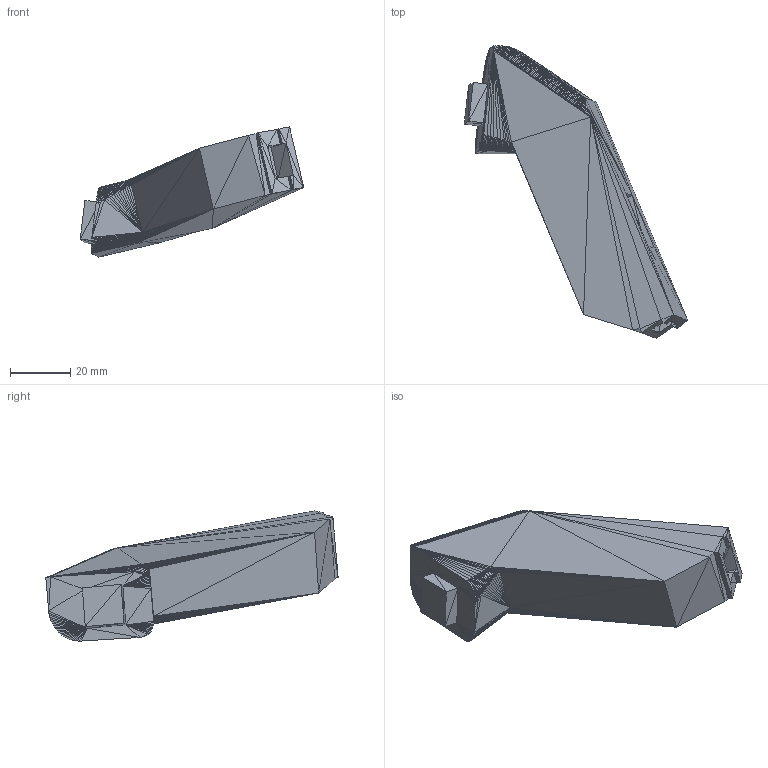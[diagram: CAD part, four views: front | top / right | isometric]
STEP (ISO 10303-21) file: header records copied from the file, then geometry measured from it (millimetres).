
FILE_DESCRIPTION((''),'2;1');
FILE_NAME('Thumb P1 Inner', '2025-03-27T08:07:32', (''), (''), 'ImageToStl.com STEP Converter','', '');
FILE_SCHEMA(('AUTOMOTIVE_DESIGN_CC2'));
Length unit declared in the file: metre
Products named in the file (1): product0
Bounding box: 74.31 x 97.15 x 43.25 mm (x, y, z)
Surface area: 11814.5 mm2 (no closed solid volume)
Topology: 0 solids, 2718 shells, 2718 faces, 8154 edges, 1361 vertices
Faces by surface type: plane 2718
Entity records: 65271 total; most frequent: DIRECTION 13592, ORIENTED_EDGE 8154, EDGE_CURVE 8154, LINE 8154, VECTOR 8154, AXIS2_PLACEMENT_3D 2719, STYLED_ITEM 2719, FACE_SURFACE 2718
